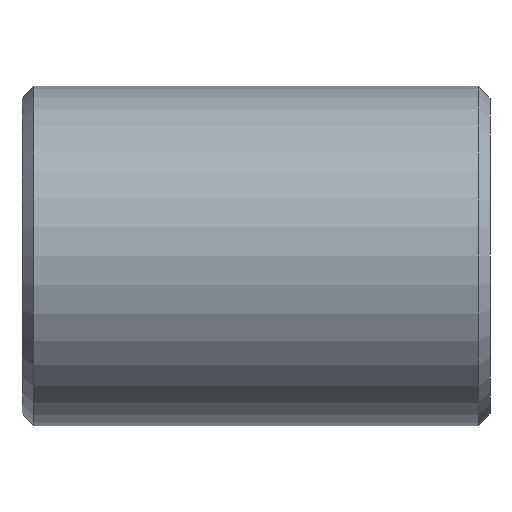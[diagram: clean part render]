
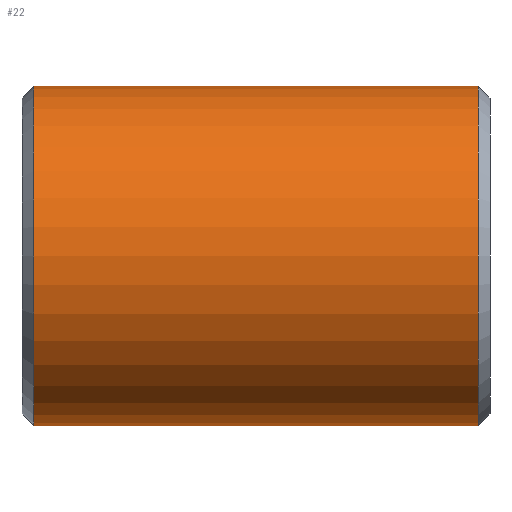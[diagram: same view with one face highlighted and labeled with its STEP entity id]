
A CAD part, front view. The second image highlights one B-rep face of the part: STEP entity #22.
In plain terms, the highlighted cylindrical face has radius 43.5 mm (diameter 87 mm), a partial arc.
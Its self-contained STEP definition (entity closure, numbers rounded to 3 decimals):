
#13 = LINE ( 'NONE', #182, #431 ) ;
#18 = CIRCLE ( 'NONE', #107, 43.5 ) ;
#22 = ADVANCED_FACE ( 'NONE', ( #211 ), #228, .T. ) ;
#25 = CARTESIAN_POINT ( 'NONE',  ( 3., 0., 43.5 ) ) ;
#28 = AXIS2_PLACEMENT_3D ( 'NONE', #29, #239, #341 ) ;
#29 = CARTESIAN_POINT ( 'NONE',  ( 0., 0., 0. ) ) ;
#64 = AXIS2_PLACEMENT_3D ( 'NONE', #112, #371, #136 ) ;
#75 = ORIENTED_EDGE ( 'NONE', *, *, #158, .T. ) ;
#87 = CARTESIAN_POINT ( 'NONE',  ( 117., 0., -43.5 ) ) ;
#96 = VERTEX_POINT ( 'NONE', #367 ) ;
#107 = AXIS2_PLACEMENT_3D ( 'NONE', #145, #379, #172 ) ;
#111 = VERTEX_POINT ( 'NONE', #25 ) ;
#112 = CARTESIAN_POINT ( 'NONE',  ( 3., 0., 0. ) ) ;
#114 = CARTESIAN_POINT ( 'NONE',  ( 117., 0., 43.5 ) ) ;
#121 = EDGE_CURVE ( 'NONE', #343, #96, #402, .T. ) ;
#136 = DIRECTION ( 'NONE',  ( 0., 0., -1. ) ) ;
#145 = CARTESIAN_POINT ( 'NONE',  ( 117., 0., 0. ) ) ;
#158 = EDGE_CURVE ( 'NONE', #111, #96, #386, .T. ) ;
#172 = DIRECTION ( 'NONE',  ( 0., 0., 1. ) ) ;
#174 = VERTEX_POINT ( 'NONE', #114 ) ;
#182 = CARTESIAN_POINT ( 'NONE',  ( 0., 0., 43.5 ) ) ;
#190 = ORIENTED_EDGE ( 'NONE', *, *, #435, .T. ) ;
#206 = EDGE_CURVE ( 'NONE', #343, #174, #18, .T. ) ;
#211 = FACE_OUTER_BOUND ( 'NONE', #422, .T. ) ;
#216 = DIRECTION ( 'NONE',  ( -1., 0., 0. ) ) ;
#228 = CYLINDRICAL_SURFACE ( 'NONE', #28, 43.5 ) ;
#239 = DIRECTION ( 'NONE',  ( -1., 0., 0. ) ) ;
#262 = DIRECTION ( 'NONE',  ( -1., 0., 0. ) ) ;
#338 = CARTESIAN_POINT ( 'NONE',  ( 0., 0., -43.5 ) ) ;
#341 = DIRECTION ( 'NONE',  ( 0., 0., 1. ) ) ;
#343 = VERTEX_POINT ( 'NONE', #87 ) ;
#367 = CARTESIAN_POINT ( 'NONE',  ( 3., 0., -43.5 ) ) ;
#371 = DIRECTION ( 'NONE',  ( 1., 0., 0. ) ) ;
#379 = DIRECTION ( 'NONE',  ( -1., 0., 0. ) ) ;
#386 = CIRCLE ( 'NONE', #64, 43.5 ) ;
#402 = LINE ( 'NONE', #338, #421 ) ;
#412 = ORIENTED_EDGE ( 'NONE', *, *, #121, .F. ) ;
#421 = VECTOR ( 'NONE', #262, 1000. ) ;
#422 = EDGE_LOOP ( 'NONE', ( #412, #433, #190, #75 ) ) ;
#431 = VECTOR ( 'NONE', #216, 1000. ) ;
#433 = ORIENTED_EDGE ( 'NONE', *, *, #206, .T. ) ;
#435 = EDGE_CURVE ( 'NONE', #174, #111, #13, .T. ) ;
